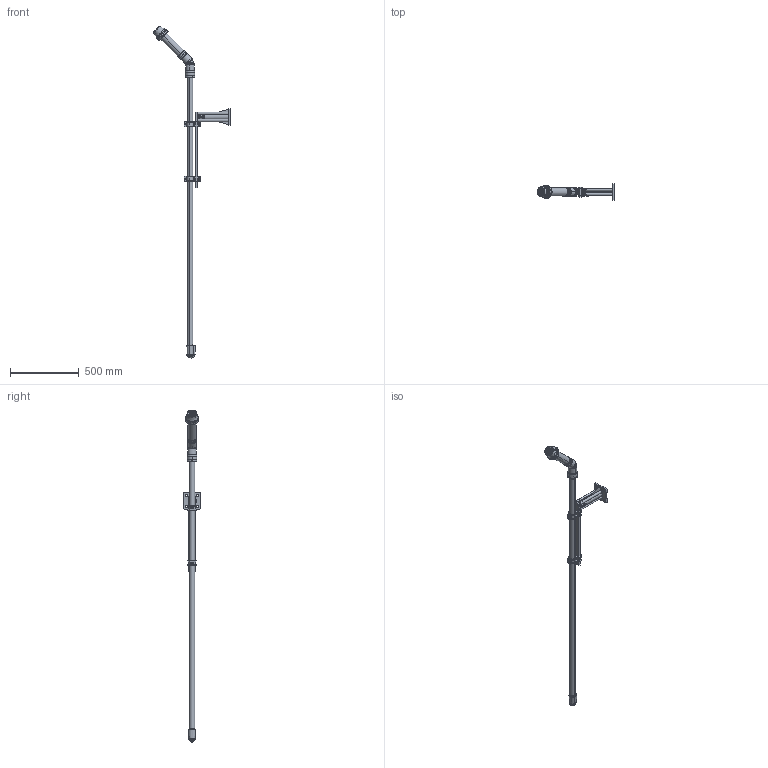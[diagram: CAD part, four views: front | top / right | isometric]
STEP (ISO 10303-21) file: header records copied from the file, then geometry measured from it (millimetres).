
FILE_DESCRIPTION (( 'STEP AP214' ), '1' );
FILE_NAME ('LZY714_TD_32x20__001.STEP', '2014-02-25T11:11:18', ( 'helpdesk' ), ( 'Hach-Lange' ), 'SwSTEP 2.0', 'SolidWorks 2012', '' );
FILE_SCHEMA (( 'AUTOMOTIVE_DESIGN' ));
Length unit declared in the file: millimetre
Products named in the file (19): LXV440.TD.00000_ Sonde_mit Reinigung ohne Kabel; HRO338_Schlauchadapter; HXD024_Reinigungsduese; HAK096_Reinigungskappe; HRS251_Flachkopfschraube DIN923 Innensechskant; BVQ935.TD_Cartridge; LXV440#1.TD_Sondenkörper_ohne Kabel; ARN001_Lamellenstopfen; HAK099_Abdeckkappe; HHA268_Sondenadapter NH4D sc_None; EXA173_Winkelstück 45 Grad 1,5 Zoll; ATS014_Sockel, bearbeitet; HPL064_Befestigungslasche; AHH033_Halterung ohne Gewinde; AHH032_Halterung mit Gewinde; BRO075_Montagerohr; HRF077_Flansch; HRO308_Stativrohr 2,0 m; LZY714_TD_32x20__001
Assembly tree (26 placements, depth 3):
  LZY714_TD_32x20__001
    BRO075_Montagerohr
      HRO308_Stativrohr 2,0 m
      HRF077_Flansch
    AHH032_Halterung mit Gewinde  x2
    AHH033_Halterung ohne Gewinde  x2
    HPL064_Befestigungslasche
    ATS014_Sockel, bearbeitet
    EXA173_Winkelstück 45 Grad 1,5 Zoll
    HHA268_Sondenadapter NH4D sc_None
    HAK099_Abdeckkappe
    ARN001_Lamellenstopfen
    LXV440.TD.00000_ Sonde_mit Reinigung ohne Kabel
      LXV440#1.TD_Sondenkörper_ohne Kabel
      BVQ935.TD_Cartridge
      HRS251_Flachkopfschraube DIN923 Innensechskant  x4
      HAK096_Reinigungskappe
      HXD024_Reinigungsduese  x4
      HRO338_Schlauchadapter
Bounding box: 563.35 x 120 x 2420 mm (x, y, z)
Volume: 2752982.6 mm3; surface area: 1040073.7 mm2
Topology: 29 solids, 29 shells, 3364 faces, 8335 edges, 4925 vertices
Faces by surface type: cylinder 846, plane 694, bspline 684, torus 613, cone 374, sphere 153
Entity records: 112928 total; most frequent: CARTESIAN_POINT 49396, ORIENTED_EDGE 13872, DIRECTION 12286, EDGE_CURVE 6936, AXIS2_PLACEMENT_3D 5308, VERTEX_POINT 4189, CIRCLE 3095, EDGE_LOOP 3015
